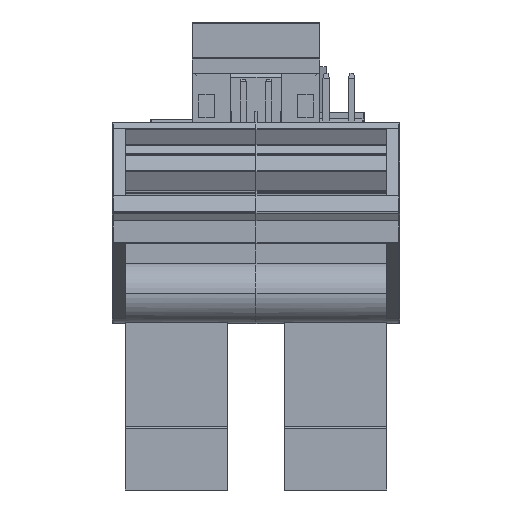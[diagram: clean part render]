
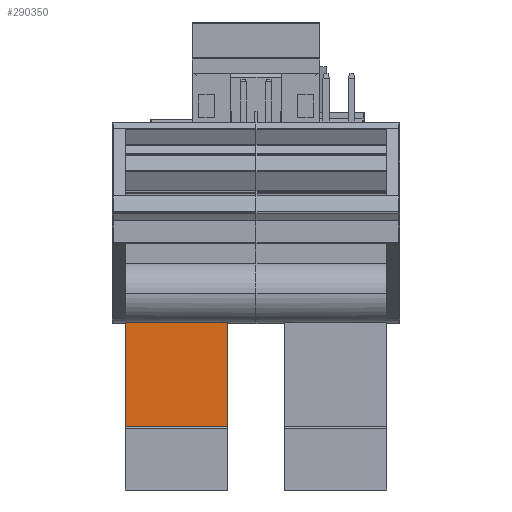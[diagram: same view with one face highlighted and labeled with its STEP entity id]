
A CAD part, front view. The second image highlights one B-rep face of the part: STEP entity #290350.
In plain terms, the highlighted planar face has unit normal (0, -1, 0) as drawn and (0, 0, 1) by its records, which use the part's own axes.
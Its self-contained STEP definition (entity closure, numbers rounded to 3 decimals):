
#251677 = PLANE('',#251678);
#251678 = AXIS2_PLACEMENT_3D('',#251679,#251680,#251681);
#251679 = CARTESIAN_POINT('',(1.,-5.36,-10.));
#251680 = DIRECTION('',(1.,0.,0.));
#251681 = DIRECTION('',(0.,0.,-1.));
#251802 = PLANE('',#251803);
#251803 = AXIS2_PLACEMENT_3D('',#251804,#251805,#251806);
#251804 = CARTESIAN_POINT('',(9.,-5.36,-10.));
#251805 = DIRECTION('',(1.,0.,0.));
#251806 = DIRECTION('',(0.,0.,-1.));
#257151 = CYLINDRICAL_SURFACE('',#257152,2.4);
#257152 = AXIS2_PLACEMENT_3D('',#257153,#257154,#257155);
#257153 = CARTESIAN_POINT('',(11.25,-5.36,29.));
#257154 = DIRECTION('',(-1.,0.,0.));
#257155 = DIRECTION('',(0.,0.,1.));
#257633 = VERTEX_POINT('',#257634);
#257634 = CARTESIAN_POINT('',(1.,-7.684,29.6));
#257678 = EDGE_CURVE('',#257679,#257633,#257681,.T.);
#257679 = VERTEX_POINT('',#257680);
#257680 = CARTESIAN_POINT('',(9.,-7.684,29.6));
#257681 = SURFACE_CURVE('',#257682,(#257686,#257715),.PCURVE_S1.);
#257682 = LINE('',#257683,#257684);
#257683 = CARTESIAN_POINT('',(9.,-7.684,29.6));
#257684 = VECTOR('',#257685,1.);
#257685 = DIRECTION('',(-1.,0.,0.));
#257686 = PCURVE('',#257151,#257687);
#257687 = DEFINITIONAL_REPRESENTATION('',(#257688),#257714);
#257688 = B_SPLINE_CURVE_WITH_KNOTS('',3,(#257689,#257690,#257691,
    #257692,#257693,#257694,#257695,#257696,#257697,#257698,#257699,
    #257700,#257701,#257702,#257703,#257704,#257705,#257706,#257707,
    #257708,#257709,#257710,#257711,#257712,#257713),.UNSPECIFIED.,.F.,
  .F.,(4,1,1,1,1,1,1,1,1,1,1,1,1,1,1,1,1,1,1,1,1,1,4),(0.,
    0.364,0.727,1.091,1.455,
    1.818,2.182,2.545,2.909,
    3.273,3.636,4.,4.364,4.727,
    5.091,5.455,5.818,6.182,
    6.545,6.909,7.273,7.636,8.),
  .QUASI_UNIFORM_KNOTS.);
#257689 = CARTESIAN_POINT('',(4.965,2.25));
#257690 = CARTESIAN_POINT('',(4.965,2.371));
#257691 = CARTESIAN_POINT('',(4.965,2.614));
#257692 = CARTESIAN_POINT('',(4.965,2.977));
#257693 = CARTESIAN_POINT('',(4.965,3.341));
#257694 = CARTESIAN_POINT('',(4.965,3.705));
#257695 = CARTESIAN_POINT('',(4.965,4.068));
#257696 = CARTESIAN_POINT('',(4.965,4.432));
#257697 = CARTESIAN_POINT('',(4.965,4.795));
#257698 = CARTESIAN_POINT('',(4.965,5.159));
#257699 = CARTESIAN_POINT('',(4.965,5.523));
#257700 = CARTESIAN_POINT('',(4.965,5.886));
#257701 = CARTESIAN_POINT('',(4.965,6.25));
#257702 = CARTESIAN_POINT('',(4.965,6.614));
#257703 = CARTESIAN_POINT('',(4.965,6.977));
#257704 = CARTESIAN_POINT('',(4.965,7.341));
#257705 = CARTESIAN_POINT('',(4.965,7.705));
#257706 = CARTESIAN_POINT('',(4.965,8.068));
#257707 = CARTESIAN_POINT('',(4.965,8.432));
#257708 = CARTESIAN_POINT('',(4.965,8.795));
#257709 = CARTESIAN_POINT('',(4.965,9.159));
#257710 = CARTESIAN_POINT('',(4.965,9.523));
#257711 = CARTESIAN_POINT('',(4.965,9.886));
#257712 = CARTESIAN_POINT('',(4.965,10.129));
#257713 = CARTESIAN_POINT('',(4.965,10.25));
#257714 = ( GEOMETRIC_REPRESENTATION_CONTEXT(2) 
PARAMETRIC_REPRESENTATION_CONTEXT() REPRESENTATION_CONTEXT('2D SPACE',''
  ) );
#257715 = PCURVE('',#257716,#257721);
#257716 = PLANE('',#257717);
#257717 = AXIS2_PLACEMENT_3D('',#257718,#257719,#257720);
#257718 = CARTESIAN_POINT('',(9.,-7.684,29.6));
#257719 = DIRECTION('',(0.,0.,1.));
#257720 = DIRECTION('',(1.,0.,0.));
#257721 = DEFINITIONAL_REPRESENTATION('',(#257722),#257726);
#257722 = LINE('',#257723,#257724);
#257723 = CARTESIAN_POINT('',(0.,0.));
#257724 = VECTOR('',#257725,1.);
#257725 = DIRECTION('',(-1.,0.));
#257726 = ( GEOMETRIC_REPRESENTATION_CONTEXT(2) 
PARAMETRIC_REPRESENTATION_CONTEXT() REPRESENTATION_CONTEXT('2D SPACE',''
  ) );
#281952 = EDGE_CURVE('',#281953,#257679,#281955,.T.);
#281953 = VERTEX_POINT('',#281954);
#281954 = CARTESIAN_POINT('',(9.,-19.6,29.6));
#281955 = SURFACE_CURVE('',#281956,(#281960,#281967),.PCURVE_S1.);
#281956 = LINE('',#281957,#281958);
#281957 = CARTESIAN_POINT('',(9.,-7.684,29.6));
#281958 = VECTOR('',#281959,1.);
#281959 = DIRECTION('',(0.,1.,0.));
#281960 = PCURVE('',#251802,#281961);
#281961 = DEFINITIONAL_REPRESENTATION('',(#281962),#281966);
#281962 = LINE('',#281963,#281964);
#281963 = CARTESIAN_POINT('',(-39.6,-2.324));
#281964 = VECTOR('',#281965,1.);
#281965 = DIRECTION('',(0.,1.));
#281966 = ( GEOMETRIC_REPRESENTATION_CONTEXT(2) 
PARAMETRIC_REPRESENTATION_CONTEXT() REPRESENTATION_CONTEXT('2D SPACE',''
  ) );
#281967 = PCURVE('',#257716,#281968);
#281968 = DEFINITIONAL_REPRESENTATION('',(#281969),#281973);
#281969 = LINE('',#281970,#281971);
#281970 = CARTESIAN_POINT('',(0.,0.));
#281971 = VECTOR('',#281972,1.);
#281972 = DIRECTION('',(0.,1.));
#281973 = ( GEOMETRIC_REPRESENTATION_CONTEXT(2) 
PARAMETRIC_REPRESENTATION_CONTEXT() REPRESENTATION_CONTEXT('2D SPACE',''
  ) );
#281991 = PLANE('',#281992);
#281992 = AXIS2_PLACEMENT_3D('',#281993,#281994,#281995);
#281993 = CARTESIAN_POINT('',(9.,-19.6,29.6));
#281994 = DIRECTION('',(0.,1.,0.));
#281995 = DIRECTION('',(0.,0.,1.));
#284539 = VERTEX_POINT('',#284540);
#284540 = CARTESIAN_POINT('',(1.,-19.6,29.6));
#284561 = EDGE_CURVE('',#284539,#257633,#284562,.T.);
#284562 = SURFACE_CURVE('',#284563,(#284567,#284574),.PCURVE_S1.);
#284563 = LINE('',#284564,#284565);
#284564 = CARTESIAN_POINT('',(1.,-7.684,29.6));
#284565 = VECTOR('',#284566,1.);
#284566 = DIRECTION('',(0.,1.,0.));
#284567 = PCURVE('',#251677,#284568);
#284568 = DEFINITIONAL_REPRESENTATION('',(#284569),#284573);
#284569 = LINE('',#284570,#284571);
#284570 = CARTESIAN_POINT('',(-39.6,-2.324));
#284571 = VECTOR('',#284572,1.);
#284572 = DIRECTION('',(0.,1.));
#284573 = ( GEOMETRIC_REPRESENTATION_CONTEXT(2) 
PARAMETRIC_REPRESENTATION_CONTEXT() REPRESENTATION_CONTEXT('2D SPACE',''
  ) );
#284574 = PCURVE('',#257716,#284575);
#284575 = DEFINITIONAL_REPRESENTATION('',(#284576),#284580);
#284576 = LINE('',#284577,#284578);
#284577 = CARTESIAN_POINT('',(-8.,0.));
#284578 = VECTOR('',#284579,1.);
#284579 = DIRECTION('',(0.,1.));
#284580 = ( GEOMETRIC_REPRESENTATION_CONTEXT(2) 
PARAMETRIC_REPRESENTATION_CONTEXT() REPRESENTATION_CONTEXT('2D SPACE',''
  ) );
#290350 = ADVANCED_FACE('',(#290351),#257716,.T.);
#290351 = FACE_BOUND('',#290352,.T.);
#290352 = EDGE_LOOP('',(#290353,#290354,#290375,#290376));
#290353 = ORIENTED_EDGE('',*,*,#284561,.F.);
#290354 = ORIENTED_EDGE('',*,*,#290355,.F.);
#290355 = EDGE_CURVE('',#281953,#284539,#290356,.T.);
#290356 = SURFACE_CURVE('',#290357,(#290361,#290368),.PCURVE_S1.);
#290357 = LINE('',#290358,#290359);
#290358 = CARTESIAN_POINT('',(9.,-19.6,29.6));
#290359 = VECTOR('',#290360,1.);
#290360 = DIRECTION('',(-1.,0.,0.));
#290361 = PCURVE('',#257716,#290362);
#290362 = DEFINITIONAL_REPRESENTATION('',(#290363),#290367);
#290363 = LINE('',#290364,#290365);
#290364 = CARTESIAN_POINT('',(0.,-11.916));
#290365 = VECTOR('',#290366,1.);
#290366 = DIRECTION('',(-1.,0.));
#290367 = ( GEOMETRIC_REPRESENTATION_CONTEXT(2) 
PARAMETRIC_REPRESENTATION_CONTEXT() REPRESENTATION_CONTEXT('2D SPACE',''
  ) );
#290368 = PCURVE('',#281991,#290369);
#290369 = DEFINITIONAL_REPRESENTATION('',(#290370),#290374);
#290370 = LINE('',#290371,#290372);
#290371 = CARTESIAN_POINT('',(0.,0.));
#290372 = VECTOR('',#290373,1.);
#290373 = DIRECTION('',(0.,-1.));
#290374 = ( GEOMETRIC_REPRESENTATION_CONTEXT(2) 
PARAMETRIC_REPRESENTATION_CONTEXT() REPRESENTATION_CONTEXT('2D SPACE',''
  ) );
#290375 = ORIENTED_EDGE('',*,*,#281952,.T.);
#290376 = ORIENTED_EDGE('',*,*,#257678,.T.);
